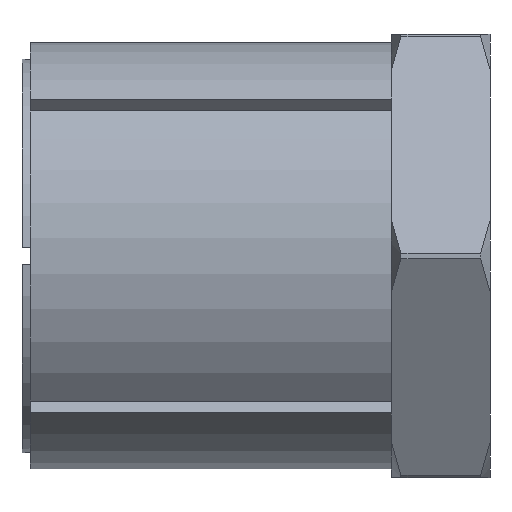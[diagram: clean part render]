
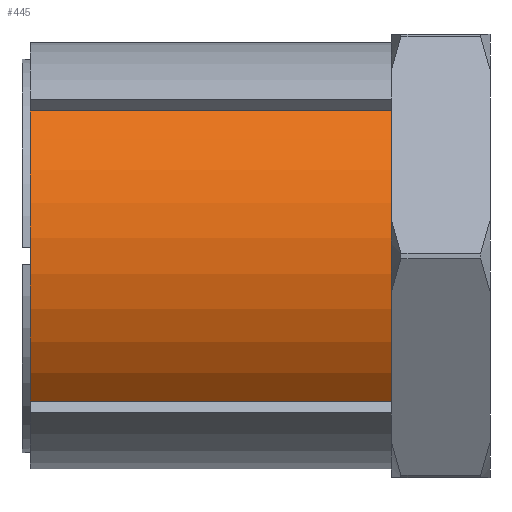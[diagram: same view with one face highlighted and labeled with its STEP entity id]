
A CAD part, front view. The second image highlights one B-rep face of the part: STEP entity #445.
In plain terms, the highlighted cylindrical face has radius 13 mm (diameter 26 mm), a partial arc.
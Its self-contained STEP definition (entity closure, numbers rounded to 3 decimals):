
#14 = DIRECTION ( 'NONE',  ( 0., 0., 1. ) ) ;
#25 = CARTESIAN_POINT ( 'NONE',  ( 0., 0., 0. ) ) ;
#44 = DIRECTION ( 'NONE',  ( -1., 0., 0. ) ) ;
#59 = DIRECTION ( 'NONE',  ( -1., 0., 0. ) ) ;
#60 = CARTESIAN_POINT ( 'NONE',  ( 0., -9.539, 8.832 ) ) ;
#62 = DIRECTION ( 'NONE',  ( 0., 0., 1. ) ) ;
#63 = DIRECTION ( 'NONE',  ( -1., 0., 0. ) ) ;
#65 = CARTESIAN_POINT ( 'NONE',  ( 22., 0., 0. ) ) ;
#66 = DIRECTION ( 'NONE',  ( 1., 0., 0. ) ) ;
#77 = CARTESIAN_POINT ( 'NONE',  ( 0., -9.539, -8.832 ) ) ;
#133 = CARTESIAN_POINT ( 'NONE',  ( 0., -9.539, -8.832 ) ) ;
#134 = CARTESIAN_POINT ( 'NONE',  ( 0., -9.539, 8.832 ) ) ;
#155 = CARTESIAN_POINT ( 'NONE',  ( 22., -9.539, -8.832 ) ) ;
#285 = EDGE_LOOP ( 'NONE', ( #624, #667, #626, #641 ) ) ;
#445 = ADVANCED_FACE ( 'NONE', ( #1179 ), #2241, .T. ) ;
#624 = ORIENTED_EDGE ( 'NONE', *, *, #842, .T. ) ;
#626 = ORIENTED_EDGE ( 'NONE', *, *, #853, .F. ) ;
#641 = ORIENTED_EDGE ( 'NONE', *, *, #841, .T. ) ;
#667 = ORIENTED_EDGE ( 'NONE', *, *, #843, .T. ) ;
#841 = EDGE_CURVE ( 'NONE', #2039, #2024, #2556, .T. ) ;
#842 = EDGE_CURVE ( 'NONE', #2024, #2072, #2558, .T. ) ;
#843 = EDGE_CURVE ( 'NONE', #2072, #2038, #2553, .T. ) ;
#853 = EDGE_CURVE ( 'NONE', #2039, #2038, #2574, .T. ) ;
#870 = AXIS2_PLACEMENT_3D ( 'NONE', #1921, #1922, #2071 ) ;
#990 = AXIS2_PLACEMENT_3D ( 'NONE', #65, #63, #62 ) ;
#997 = AXIS2_PLACEMENT_3D ( 'NONE', #25, #44, #14 ) ;
#1149 = CARTESIAN_POINT ( 'NONE',  ( 22., -9.539, 8.832 ) ) ;
#1179 = FACE_OUTER_BOUND ( 'NONE', #285, .T. ) ;
#1921 = CARTESIAN_POINT ( 'NONE',  ( 0., 0., 0. ) ) ;
#1922 = DIRECTION ( 'NONE',  ( -1., 0., 0. ) ) ;
#2024 = VERTEX_POINT ( 'NONE', #155 ) ;
#2038 = VERTEX_POINT ( 'NONE', #134 ) ;
#2039 = VERTEX_POINT ( 'NONE', #133 ) ;
#2071 = DIRECTION ( 'NONE',  ( 0., 0., 1. ) ) ;
#2072 = VERTEX_POINT ( 'NONE', #1149 ) ;
#2241 = CYLINDRICAL_SURFACE ( 'NONE', #870, 13. ) ;
#2552 = VECTOR ( 'NONE', #66, 1000. ) ;
#2553 = LINE ( 'NONE', #60, #2555 ) ;
#2555 = VECTOR ( 'NONE', #59, 1000. ) ;
#2556 = LINE ( 'NONE', #77, #2552 ) ;
#2558 = CIRCLE ( 'NONE', #990, 13. ) ;
#2574 = CIRCLE ( 'NONE', #997, 13. ) ;
